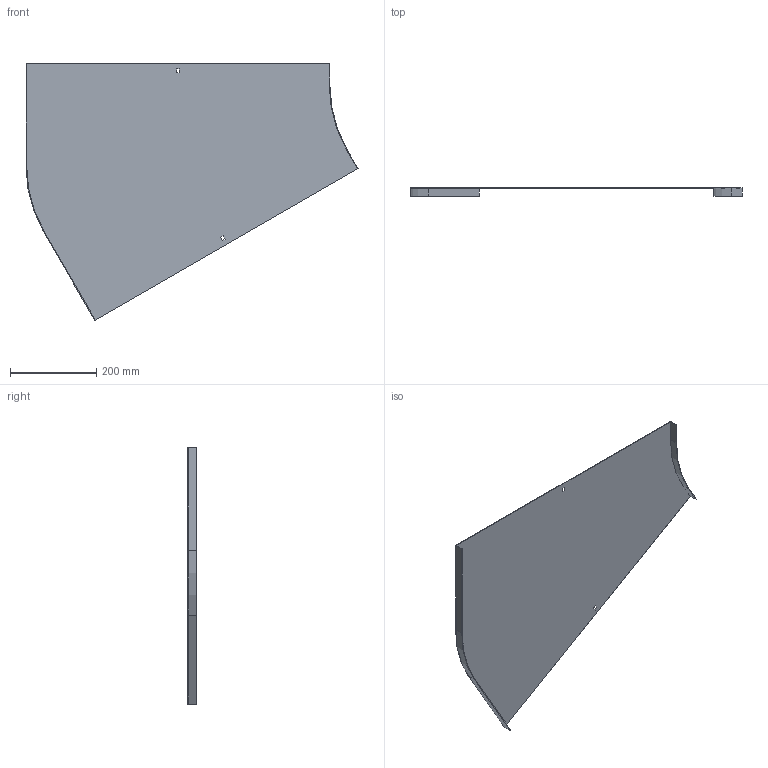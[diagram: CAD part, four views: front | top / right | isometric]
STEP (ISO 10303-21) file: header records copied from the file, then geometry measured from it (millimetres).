
FILE_DESCRIPTION (( 'STEP AP214' ), '1' );
FILE_NAME ('B2_12N3R700.step', '2025-02-21T10:49:39', ( '' ), ( '' ), 'SwSTEP 2.0', 'SolidWorks 2023', '' );
FILE_SCHEMA (( 'AUTOMOTIVE_DESIGN' ));
Length unit declared in the file: millimetre
Products named in the file (1): B2_12N3R700
Bounding box: 767.99 x 20 x 594.05 mm (x, y, z)
Volume: 497253.8 mm3; surface area: 666652 mm2
Topology: 1 solids, 1 shells, 26 faces, 72 edges, 48 vertices
Faces by surface type: plane 22, cylinder 4
Entity records: 855 total; most frequent: CARTESIAN_POINT 147, ORIENTED_EDGE 144, DIRECTION 134, EDGE_CURVE 72, VECTOR 64, LINE 64, VERTEX_POINT 48, AXIS2_PLACEMENT_3D 35
